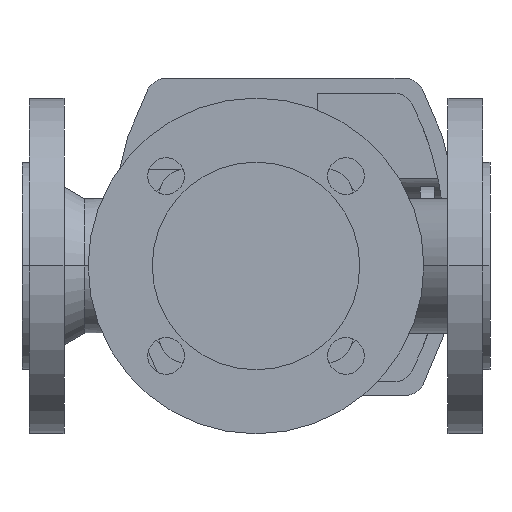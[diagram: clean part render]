
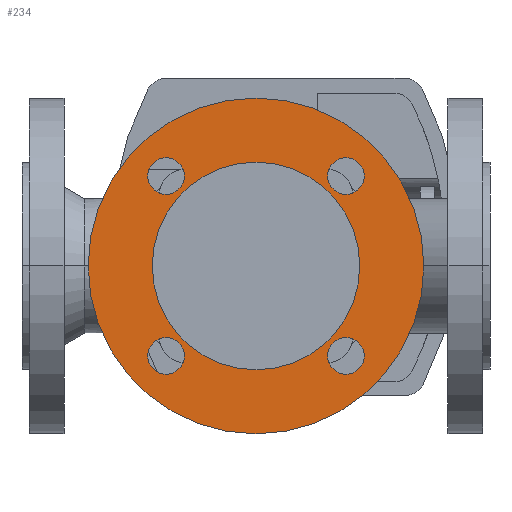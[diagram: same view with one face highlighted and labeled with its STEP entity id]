
A CAD part, front view. The second image highlights one B-rep face of the part: STEP entity #234.
In plain terms, the highlighted planar face has unit normal (0, -1, 0).
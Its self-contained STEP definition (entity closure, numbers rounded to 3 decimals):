
#234 = ADVANCED_FACE( '', ( #612, #613, #614, #615, #616, #617 ), #618, .F. );
#612 = FACE_BOUND( '', #1156, .T. );
#613 = FACE_BOUND( '', #1157, .T. );
#614 = FACE_BOUND( '', #1158, .T. );
#615 = FACE_BOUND( '', #1159, .T. );
#616 = FACE_OUTER_BOUND( '', #1160, .T. );
#617 = FACE_BOUND( '', #1161, .T. );
#618 = PLANE( '', #1162 );
#1156 = EDGE_LOOP( '', ( #2317, #2318 ) );
#1157 = EDGE_LOOP( '', ( #2319, #2320 ) );
#1158 = EDGE_LOOP( '', ( #2321, #2322 ) );
#1159 = EDGE_LOOP( '', ( #2323, #2324 ) );
#1160 = EDGE_LOOP( '', ( #2325, #2326 ) );
#1161 = EDGE_LOOP( '', ( #2327, #2328 ) );
#1162 = AXIS2_PLACEMENT_3D( '', #2329, #2330, #2331 );
#2317 = ORIENTED_EDGE( '', *, *, #3615, .T. );
#2318 = ORIENTED_EDGE( '', *, *, #3616, .T. );
#2319 = ORIENTED_EDGE( '', *, *, #3611, .T. );
#2320 = ORIENTED_EDGE( '', *, *, #3618, .T. );
#2321 = ORIENTED_EDGE( '', *, *, #3607, .T. );
#2322 = ORIENTED_EDGE( '', *, *, #3620, .T. );
#2323 = ORIENTED_EDGE( '', *, *, #3603, .T. );
#2324 = ORIENTED_EDGE( '', *, *, #3622, .T. );
#2325 = ORIENTED_EDGE( '', *, *, #3516, .F. );
#2326 = ORIENTED_EDGE( '', *, *, #3783, .F. );
#2327 = ORIENTED_EDGE( '', *, *, #3498, .F. );
#2328 = ORIENTED_EDGE( '', *, *, #3784, .F. );
#2329 = CARTESIAN_POINT( '', ( 115., -96.5, 0. ) );
#2330 = DIRECTION( '', ( 0., 1., 0. ) );
#2331 = DIRECTION( '', ( 0., 0., 1. ) );
#3498 = EDGE_CURVE( '', #4156, #4152, #4158, .T. );
#3516 = EDGE_CURVE( '', #4189, #4192, #4193, .T. );
#3603 = EDGE_CURVE( '', #4355, #4359, #4361, .T. );
#3607 = EDGE_CURVE( '', #4363, #4367, #4369, .T. );
#3611 = EDGE_CURVE( '', #4371, #4375, #4377, .T. );
#3615 = EDGE_CURVE( '', #4379, #4383, #4385, .T. );
#3616 = EDGE_CURVE( '', #4383, #4379, #4386, .T. );
#3618 = EDGE_CURVE( '', #4375, #4371, #4388, .T. );
#3620 = EDGE_CURVE( '', #4367, #4363, #4390, .T. );
#3622 = EDGE_CURVE( '', #4359, #4355, #4392, .T. );
#3783 = EDGE_CURVE( '', #4192, #4189, #4631, .T. );
#3784 = EDGE_CURVE( '', #4152, #4156, #4632, .T. );
#4152 = VERTEX_POINT( '', #5337 );
#4156 = VERTEX_POINT( '', #5342 );
#4158 = CIRCLE( '', #5345, 51. );
#4189 = VERTEX_POINT( '', #5457 );
#4192 = VERTEX_POINT( '', #5461 );
#4193 = CIRCLE( '', #5462, 82.5 );
#4355 = VERTEX_POINT( '', #5751 );
#4359 = VERTEX_POINT( '', #5756 );
#4361 = CIRCLE( '', #5759, 9. );
#4363 = VERTEX_POINT( '', #5761 );
#4367 = VERTEX_POINT( '', #5766 );
#4369 = CIRCLE( '', #5769, 9. );
#4371 = VERTEX_POINT( '', #5771 );
#4375 = VERTEX_POINT( '', #5776 );
#4377 = CIRCLE( '', #5779, 9. );
#4379 = VERTEX_POINT( '', #5781 );
#4383 = VERTEX_POINT( '', #5786 );
#4385 = CIRCLE( '', #5789, 9. );
#4386 = CIRCLE( '', #5790, 9. );
#4388 = CIRCLE( '', #5792, 9. );
#4390 = CIRCLE( '', #5794, 9. );
#4392 = CIRCLE( '', #5796, 9. );
#4631 = CIRCLE( '', #6322, 82.5 );
#4632 = CIRCLE( '', #6323, 51. );
#5337 = CARTESIAN_POINT( '', ( 166., -96.5, 0. ) );
#5342 = CARTESIAN_POINT( '', ( 64., -96.5, 0. ) );
#5345 = AXIS2_PLACEMENT_3D( '', #7141, #7142, #7143 );
#5457 = CARTESIAN_POINT( '', ( 197.5, -96.5, 0. ) );
#5461 = CARTESIAN_POINT( '', ( 32.5, -96.5, 0. ) );
#5462 = AXIS2_PLACEMENT_3D( '', #7178, #7179, #7180 );
#5751 = CARTESIAN_POINT( '', ( 61.806, -96.5, -44.194 ) );
#5756 = CARTESIAN_POINT( '', ( 79.806, -96.5, -44.194 ) );
#5759 = AXIS2_PLACEMENT_3D( '', #7343, #7344, #7345 );
#5761 = CARTESIAN_POINT( '', ( 61.806, -96.5, 44.194 ) );
#5766 = CARTESIAN_POINT( '', ( 79.806, -96.5, 44.194 ) );
#5769 = AXIS2_PLACEMENT_3D( '', #7351, #7352, #7353 );
#5771 = CARTESIAN_POINT( '', ( 150.194, -96.5, 44.194 ) );
#5776 = CARTESIAN_POINT( '', ( 168.194, -96.5, 44.194 ) );
#5779 = AXIS2_PLACEMENT_3D( '', #7359, #7360, #7361 );
#5781 = CARTESIAN_POINT( '', ( 150.194, -96.5, -44.194 ) );
#5786 = CARTESIAN_POINT( '', ( 168.194, -96.5, -44.194 ) );
#5789 = AXIS2_PLACEMENT_3D( '', #7367, #7368, #7369 );
#5790 = AXIS2_PLACEMENT_3D( '', #7370, #7371, #7372 );
#5792 = AXIS2_PLACEMENT_3D( '', #7376, #7377, #7378 );
#5794 = AXIS2_PLACEMENT_3D( '', #7382, #7383, #7384 );
#5796 = AXIS2_PLACEMENT_3D( '', #7388, #7389, #7390 );
#6322 = AXIS2_PLACEMENT_3D( '', #7676, #7677, #7678 );
#6323 = AXIS2_PLACEMENT_3D( '', #7679, #7680, #7681 );
#7141 = CARTESIAN_POINT( '', ( 115., -96.5, 0. ) );
#7142 = DIRECTION( '', ( 0., -1., 0. ) );
#7143 = DIRECTION( '', ( 1., 0., 0. ) );
#7178 = CARTESIAN_POINT( '', ( 115., -96.5, 0. ) );
#7179 = DIRECTION( '', ( 0., 1., 0. ) );
#7180 = DIRECTION( '', ( 1., 0., 0. ) );
#7343 = CARTESIAN_POINT( '', ( 70.806, -96.5, -44.194 ) );
#7344 = DIRECTION( '', ( 0., 1., 0. ) );
#7345 = DIRECTION( '', ( -1., 0., 0. ) );
#7351 = CARTESIAN_POINT( '', ( 70.806, -96.5, 44.194 ) );
#7352 = DIRECTION( '', ( 0., 1., 0. ) );
#7353 = DIRECTION( '', ( -1., 0., 0. ) );
#7359 = CARTESIAN_POINT( '', ( 159.194, -96.5, 44.194 ) );
#7360 = DIRECTION( '', ( 0., 1., 0. ) );
#7361 = DIRECTION( '', ( -1., 0., 0. ) );
#7367 = CARTESIAN_POINT( '', ( 159.194, -96.5, -44.194 ) );
#7368 = DIRECTION( '', ( 0., 1., 0. ) );
#7369 = DIRECTION( '', ( -1., 0., 0. ) );
#7370 = CARTESIAN_POINT( '', ( 159.194, -96.5, -44.194 ) );
#7371 = DIRECTION( '', ( 0., 1., 0. ) );
#7372 = DIRECTION( '', ( -1., 0., 0. ) );
#7376 = CARTESIAN_POINT( '', ( 159.194, -96.5, 44.194 ) );
#7377 = DIRECTION( '', ( 0., 1., 0. ) );
#7378 = DIRECTION( '', ( -1., 0., 0. ) );
#7382 = CARTESIAN_POINT( '', ( 70.806, -96.5, 44.194 ) );
#7383 = DIRECTION( '', ( 0., 1., 0. ) );
#7384 = DIRECTION( '', ( -1., 0., 0. ) );
#7388 = CARTESIAN_POINT( '', ( 70.806, -96.5, -44.194 ) );
#7389 = DIRECTION( '', ( 0., 1., 0. ) );
#7390 = DIRECTION( '', ( -1., 0., 0. ) );
#7676 = CARTESIAN_POINT( '', ( 115., -96.5, 0. ) );
#7677 = DIRECTION( '', ( 0., 1., 0. ) );
#7678 = DIRECTION( '', ( 1., 0., 0. ) );
#7679 = CARTESIAN_POINT( '', ( 115., -96.5, 0. ) );
#7680 = DIRECTION( '', ( 0., -1., 0. ) );
#7681 = DIRECTION( '', ( 1., 0., 0. ) );
